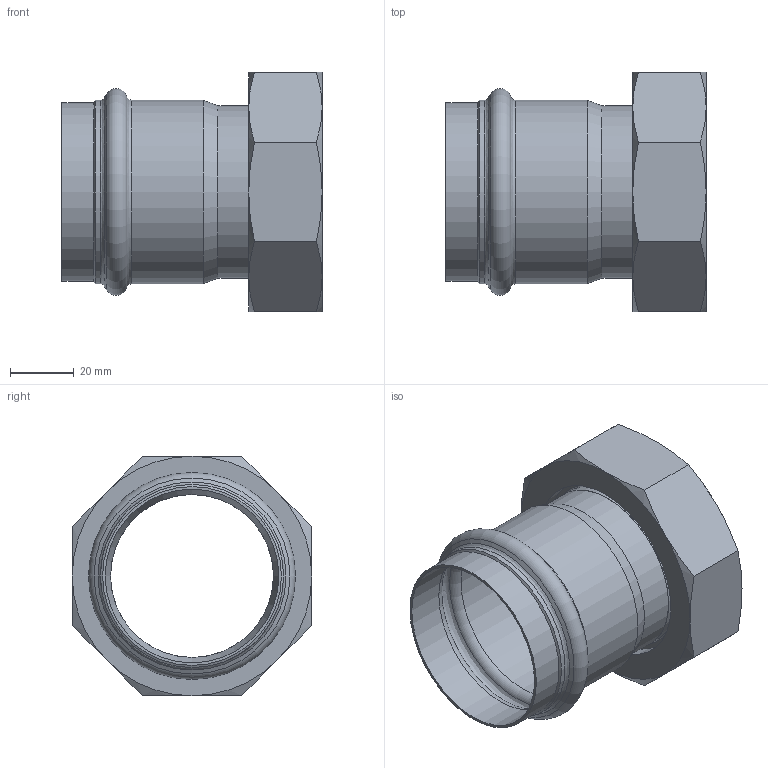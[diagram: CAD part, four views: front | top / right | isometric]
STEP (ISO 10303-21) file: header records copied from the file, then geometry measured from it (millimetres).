
FILE_DESCRIPTION((''),'2;1');
FILE_NAME('G:\Nirosan-Schmiedefeld\Technics\CAD\Bauteile VA\054\69359m54238(2).stp','2011-01-04T14:45:28',('herberg'),(''),'Autodesk Inventor 2009','Autodesk Inventor 2009','');
FILE_SCHEMA(('AUTOMOTIVE_DESIGN { 1 0 10303 214 1 1 1 1 }'));
Length unit declared in the file: millimetre
Products named in the file (5): 69359m54238(2); HM_6924354(1); R54238(1); FD_6555_EPDM(0); AM54238(2)
Assembly tree (4 placements, depth 2):
  69359m54238(2)
    HM_6924354(1)
    R54238(1)
    FD_6555_EPDM(0)
    AM54238(2)
Bounding box: 81.5 x 75 x 75 mm (x, y, z)
Volume: 51882.1 mm3; surface area: 43922.9 mm2
Topology: 4 solids, 4 shells, 62 faces, 121 edges, 69 vertices
Faces by surface type: cone 22, plane 17, cylinder 12, bspline 7, torus 4
Full cylindrical faces by diameter (mm): 51 x2, 54 x2, 54.35 x2, 55 x1, 55.95 x1, 57.35 x2, 65 x2
Entity records: 1780 total; most frequent: CARTESIAN_POINT 546, DIRECTION 242, ORIENTED_EDGE 186, AXIS2_PLACEMENT_3D 117, EDGE_LOOP 100, EDGE_CURVE 93, VERTEX_POINT 69, FACE_OUTER_BOUND 62
